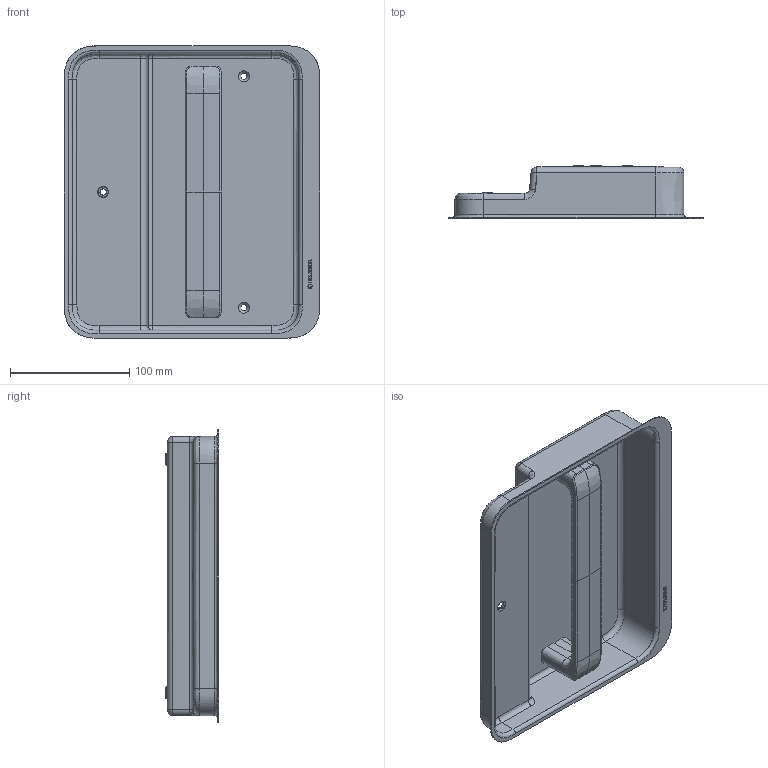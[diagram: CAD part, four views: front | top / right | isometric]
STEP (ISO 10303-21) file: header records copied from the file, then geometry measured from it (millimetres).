
FILE_DESCRIPTION(/* description */ (''),/* implementation_level */ '2;1');
FILE_NAME(/* name */ 'C:\ADSK_DMS_WS\Designs\Vorschläge\Loc Schalen\Heusser Muschel\Heusser-Muschel mit D6\S9.42.D6.0R..stp',/* time_stamp */ '2025-02-18T09:56:58+01:00',/* author */ ('gm'),/* organization */ (''),/* preprocessor_version */ 'ST-DEVELOPER v17.2',/* originating_system */ 'Autodesk Inventor 2019',/* authorisation */ '');
FILE_SCHEMA (('AUTOMOTIVE_DESIGN { 1 0 10303 214 3 1 1 }'));
Length unit declared in the file: millimetre
Products named in the file (4): S9.42.D6.R.; Schale S9.42.R.D6; D6; M5x10 zu D6
Assembly tree (6 placements, depth 2):
  S9.42.D6.R.
    Schale S9.42.R.D6
    D6
    M5x10 zu D6  x4
Bounding box: 214 x 44.5 x 245 mm (x, y, z)
Volume: 161010.5 mm3; surface area: 183426.3 mm2
Topology: 6 solids, 6 shells, 417 faces, 1073 edges, 683 vertices
Faces by surface type: bspline 168, plane 131, cylinder 64, cone 50, torus 4
Full cylindrical faces by diameter (mm): 4.134 x4, 5 x4, 5.5 x4, 9 x4
Entity records: 24889 total; most frequent: CARTESIAN_POINT 17671, ORIENTED_EDGE 1714, DIRECTION 968, EDGE_CURVE 857, VERTEX_POINT 548, LINE 444, VECTOR 444, EDGE_LOOP 371
